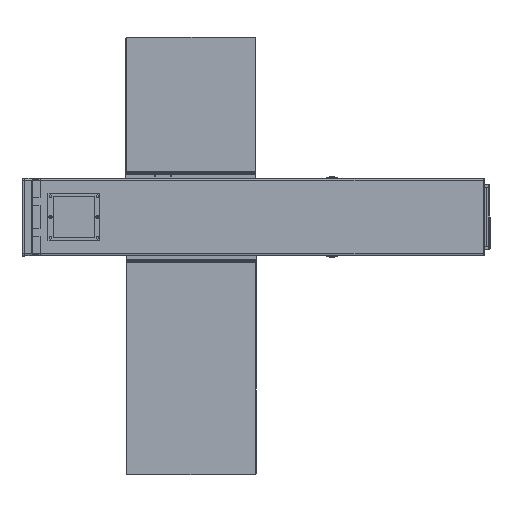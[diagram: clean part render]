
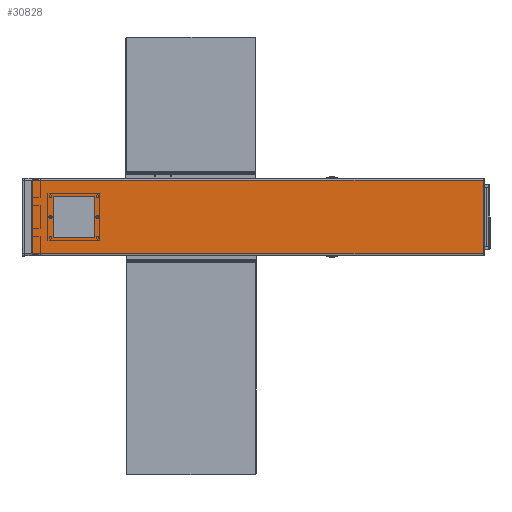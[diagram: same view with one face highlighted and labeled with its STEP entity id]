
A CAD part, left-side view. The second image highlights one B-rep face of the part: STEP entity #30828.
In plain terms, the highlighted planar face has unit normal (-1, 0, 0).
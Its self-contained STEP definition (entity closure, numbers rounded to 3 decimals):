
#337 = VERTEX_POINT ( 'NONE', #79385 ) ;
#3198 = CARTESIAN_POINT ( 'NONE',  ( 0., 830., -36. ) ) ;
#3892 = CARTESIAN_POINT ( 'NONE',  ( 0., 870., -74. ) ) ;
#4040 = VERTEX_POINT ( 'NONE', #64773 ) ;
#4157 = CARTESIAN_POINT ( 'NONE',  ( 0., 1.5, -71. ) ) ;
#4628 = EDGE_LOOP ( 'NONE', ( #47798, #52063, #79483, #47488, #58689, #17832, #61962, #34202 ) ) ;
#5504 = LINE ( 'NONE', #30601, #6350 ) ;
#6343 = CARTESIAN_POINT ( 'NONE',  ( 0., 870., 70.999 ) ) ;
#6350 = VECTOR ( 'NONE', #83097, 1000. ) ;
#6605 = DIRECTION ( 'NONE',  ( 0., 0., 1. ) ) ;
#6797 = VERTEX_POINT ( 'NONE', #80887 ) ;
#7009 = VECTOR ( 'NONE', #68384, 1000. ) ;
#8857 = DIRECTION ( 'NONE',  ( 0., 1., 0. ) ) ;
#9012 = LINE ( 'NONE', #3892, #33844 ) ;
#9093 = DIRECTION ( 'NONE',  ( 0., 0., 1. ) ) ;
#9114 = CARTESIAN_POINT ( 'NONE',  ( 0., 3., -70.999 ) ) ;
#9530 = CARTESIAN_POINT ( 'NONE',  ( 0., 830., 36. ) ) ;
#9536 = CARTESIAN_POINT ( 'NONE',  ( 0., 3., -74. ) ) ;
#9957 = VERTEX_POINT ( 'NONE', #65087 ) ;
#10374 = EDGE_CURVE ( 'NONE', #20905, #56821, #39145, .T. ) ;
#11078 = CARTESIAN_POINT ( 'NONE',  ( 0., 3., 71. ) ) ;
#11084 = VERTEX_POINT ( 'NONE', #61737 ) ;
#11988 = CARTESIAN_POINT ( 'NONE',  ( 0., 870., 71. ) ) ;
#12217 = EDGE_CURVE ( 'NONE', #9957, #24961, #78831, .T. ) ;
#12304 = LINE ( 'NONE', #6343, #42551 ) ;
#13411 = CARTESIAN_POINT ( 'NONE',  ( 0., 750., -36. ) ) ;
#13492 = EDGE_CURVE ( 'NONE', #75972, #77799, #5504, .T. ) ;
#14155 = CARTESIAN_POINT ( 'NONE',  ( 0., 870., -74. ) ) ;
#14454 = VECTOR ( 'NONE', #43385, 1000. ) ;
#14575 = FACE_OUTER_BOUND ( 'NONE', #4628, .T. ) ;
#15632 = EDGE_CURVE ( 'NONE', #66747, #11084, #76503, .T. ) ;
#16246 = CARTESIAN_POINT ( 'NONE',  ( 0., 750., 36. ) ) ;
#17832 = ORIENTED_EDGE ( 'NONE', *, *, #42977, .F. ) ;
#19861 = DIRECTION ( 'NONE',  ( -1., 0., 0. ) ) ;
#20905 = VERTEX_POINT ( 'NONE', #16246 ) ;
#21819 = EDGE_CURVE ( 'NONE', #337, #40309, #12304, .T. ) ;
#22491 = CARTESIAN_POINT ( 'NONE',  ( 0., 754., 40. ) ) ;
#23617 = DIRECTION ( 'NONE',  ( -1., 0., 0. ) ) ;
#23872 = AXIS2_PLACEMENT_3D ( 'NONE', #14155, #59677, #26032 ) ;
#23987 = VECTOR ( 'NONE', #45058, 1000. ) ;
#24389 = ORIENTED_EDGE ( 'NONE', *, *, #12217, .F. ) ;
#24532 = CARTESIAN_POINT ( 'NONE',  ( 0., 754., 36. ) ) ;
#24961 = VERTEX_POINT ( 'NONE', #9530 ) ;
#25255 = DIRECTION ( 'NONE',  ( 0., 0., -1. ) ) ;
#25821 = LINE ( 'NONE', #70621, #14454 ) ;
#25842 = CARTESIAN_POINT ( 'NONE',  ( 0., 754., -36. ) ) ;
#25931 = EDGE_CURVE ( 'NONE', #4040, #48479, #36603, .T. ) ;
#26032 = DIRECTION ( 'NONE',  ( 0., 0., -1. ) ) ;
#26158 = DIRECTION ( 'NONE',  ( 0., 0., -1. ) ) ;
#26683 = LINE ( 'NONE', #11988, #66952 ) ;
#29704 = EDGE_CURVE ( 'NONE', #48479, #20905, #45780, .T. ) ;
#30601 = CARTESIAN_POINT ( 'NONE',  ( 0., 3.001, -74. ) ) ;
#30828 = ADVANCED_FACE ( 'NONE', ( #65270, #14575 ), #32412, .F. ) ;
#32196 = LINE ( 'NONE', #44220, #23987 ) ;
#32376 = EDGE_CURVE ( 'NONE', #11084, #4040, #33183, .T. ) ;
#32412 = PLANE ( 'NONE',  #23872 ) ;
#33183 = LINE ( 'NONE', #66465, #79755 ) ;
#33746 = EDGE_CURVE ( 'NONE', #77799, #6797, #75316, .T. ) ;
#33844 = VECTOR ( 'NONE', #34938, 1000. ) ;
#34182 = CARTESIAN_POINT ( 'NONE',  ( 0., 3., -71. ) ) ;
#34202 = ORIENTED_EDGE ( 'NONE', *, *, #33746, .F. ) ;
#34938 = DIRECTION ( 'NONE',  ( 0., 0., 1. ) ) ;
#34940 = ORIENTED_EDGE ( 'NONE', *, *, #49379, .F. ) ;
#35141 = ORIENTED_EDGE ( 'NONE', *, *, #37008, .F. ) ;
#36372 = VERTEX_POINT ( 'NONE', #11078 ) ;
#36603 = CIRCLE ( 'NONE', #81601, 4. ) ;
#36836 = VERTEX_POINT ( 'NONE', #70166 ) ;
#37008 = EDGE_CURVE ( 'NONE', #24961, #66747, #42795, .T. ) ;
#39145 = CIRCLE ( 'NONE', #50097, 4. ) ;
#40309 = VERTEX_POINT ( 'NONE', #57942 ) ;
#42551 = VECTOR ( 'NONE', #58686, 1000. ) ;
#42795 = LINE ( 'NONE', #3198, #7009 ) ;
#42977 = EDGE_CURVE ( 'NONE', #36836, #36372, #26683, .T. ) ;
#43241 = CARTESIAN_POINT ( 'NONE',  ( 0., 826., -36. ) ) ;
#43385 = DIRECTION ( 'NONE',  ( 0., 1., 0. ) ) ;
#43822 = VECTOR ( 'NONE', #6605, 1000. ) ;
#44220 = CARTESIAN_POINT ( 'NONE',  ( 0., 3., 73.585 ) ) ;
#45058 = DIRECTION ( 'NONE',  ( 0., 0., -1. ) ) ;
#45780 = LINE ( 'NONE', #13411, #43822 ) ;
#46730 = ORIENTED_EDGE ( 'NONE', *, *, #29704, .F. ) ;
#47466 = ORIENTED_EDGE ( 'NONE', *, *, #32376, .F. ) ;
#47488 = ORIENTED_EDGE ( 'NONE', *, *, #21819, .T. ) ;
#47491 = CARTESIAN_POINT ( 'NONE',  ( 0., 750., -36. ) ) ;
#47798 = ORIENTED_EDGE ( 'NONE', *, *, #13492, .F. ) ;
#48469 = DIRECTION ( 'NONE',  ( -1., 0., 0. ) ) ;
#48479 = VERTEX_POINT ( 'NONE', #47491 ) ;
#48617 = CARTESIAN_POINT ( 'NONE',  ( 0., 830., -36. ) ) ;
#49379 = EDGE_CURVE ( 'NONE', #56821, #9957, #74122, .T. ) ;
#49627 = ORIENTED_EDGE ( 'NONE', *, *, #15632, .F. ) ;
#50097 = AXIS2_PLACEMENT_3D ( 'NONE', #24532, #58141, #26158 ) ;
#52063 = ORIENTED_EDGE ( 'NONE', *, *, #67165, .F. ) ;
#52869 = VERTEX_POINT ( 'NONE', #9114 ) ;
#53066 = VECTOR ( 'NONE', #55358, 1000. ) ;
#54682 = LINE ( 'NONE', #9536, #64311 ) ;
#55358 = DIRECTION ( 'NONE',  ( 0., 1., 0. ) ) ;
#56821 = VERTEX_POINT ( 'NONE', #22491 ) ;
#57942 = CARTESIAN_POINT ( 'NONE',  ( 0., 3., 70.999 ) ) ;
#58141 = DIRECTION ( 'NONE',  ( -1., 0., 0. ) ) ;
#58686 = DIRECTION ( 'NONE',  ( 0., 1., 0. ) ) ;
#58689 = ORIENTED_EDGE ( 'NONE', *, *, #81970, .T. ) ;
#59175 = DIRECTION ( 'NONE',  ( 0., -1., 0. ) ) ;
#59677 = DIRECTION ( 'NONE',  ( 1., 0., 0. ) ) ;
#61204 = CARTESIAN_POINT ( 'NONE',  ( 0., 826., 36. ) ) ;
#61302 = CARTESIAN_POINT ( 'NONE',  ( 0., 826., 40. ) ) ;
#61737 = CARTESIAN_POINT ( 'NONE',  ( 0., 826., -40. ) ) ;
#61962 = ORIENTED_EDGE ( 'NONE', *, *, #79962, .F. ) ;
#64230 = DIRECTION ( 'NONE',  ( 0., 0., -1. ) ) ;
#64311 = VECTOR ( 'NONE', #9093, 1000. ) ;
#64773 = CARTESIAN_POINT ( 'NONE',  ( 0., 754., -40. ) ) ;
#65087 = CARTESIAN_POINT ( 'NONE',  ( 0., 826., 40. ) ) ;
#65174 = AXIS2_PLACEMENT_3D ( 'NONE', #61204, #48469, #80029 ) ;
#65270 = FACE_BOUND ( 'NONE', #75180, .T. ) ;
#66465 = CARTESIAN_POINT ( 'NONE',  ( 0., 826., -40. ) ) ;
#66747 = VERTEX_POINT ( 'NONE', #48617 ) ;
#66952 = VECTOR ( 'NONE', #83199, 1000. ) ;
#67164 = EDGE_CURVE ( 'NONE', #337, #52869, #32196, .T. ) ;
#67165 = EDGE_CURVE ( 'NONE', #52869, #75972, #25821, .T. ) ;
#68384 = DIRECTION ( 'NONE',  ( 0., 0., -1. ) ) ;
#69315 = ORIENTED_EDGE ( 'NONE', *, *, #25931, .F. ) ;
#70166 = CARTESIAN_POINT ( 'NONE',  ( 0., 870., 71. ) ) ;
#70621 = CARTESIAN_POINT ( 'NONE',  ( 0., 870., -70.999 ) ) ;
#72591 = CARTESIAN_POINT ( 'NONE',  ( 0., 3., -70.999 ) ) ;
#74122 = LINE ( 'NONE', #61302, #53066 ) ;
#74283 = ORIENTED_EDGE ( 'NONE', *, *, #10374, .F. ) ;
#75180 = EDGE_LOOP ( 'NONE', ( #47466, #49627, #35141, #24389, #34940, #74283, #46730, #69315 ) ) ;
#75316 = LINE ( 'NONE', #4157, #80002 ) ;
#75972 = VERTEX_POINT ( 'NONE', #72591 ) ;
#76503 = CIRCLE ( 'NONE', #79215, 4. ) ;
#77799 = VERTEX_POINT ( 'NONE', #34182 ) ;
#78831 = CIRCLE ( 'NONE', #65174, 4. ) ;
#79215 = AXIS2_PLACEMENT_3D ( 'NONE', #43241, #23617, #25255 ) ;
#79385 = CARTESIAN_POINT ( 'NONE',  ( 0., 3., 70.999 ) ) ;
#79483 = ORIENTED_EDGE ( 'NONE', *, *, #67164, .F. ) ;
#79755 = VECTOR ( 'NONE', #59175, 1000. ) ;
#79962 = EDGE_CURVE ( 'NONE', #6797, #36836, #9012, .T. ) ;
#80002 = VECTOR ( 'NONE', #8857, 1000. ) ;
#80029 = DIRECTION ( 'NONE',  ( 0., 0., -1. ) ) ;
#80887 = CARTESIAN_POINT ( 'NONE',  ( 0., 870., -71. ) ) ;
#81601 = AXIS2_PLACEMENT_3D ( 'NONE', #25842, #19861, #64230 ) ;
#81970 = EDGE_CURVE ( 'NONE', #40309, #36372, #54682, .T. ) ;
#83097 = DIRECTION ( 'NONE',  ( 0., 0., -1. ) ) ;
#83199 = DIRECTION ( 'NONE',  ( 0., -1., 0. ) ) ;
